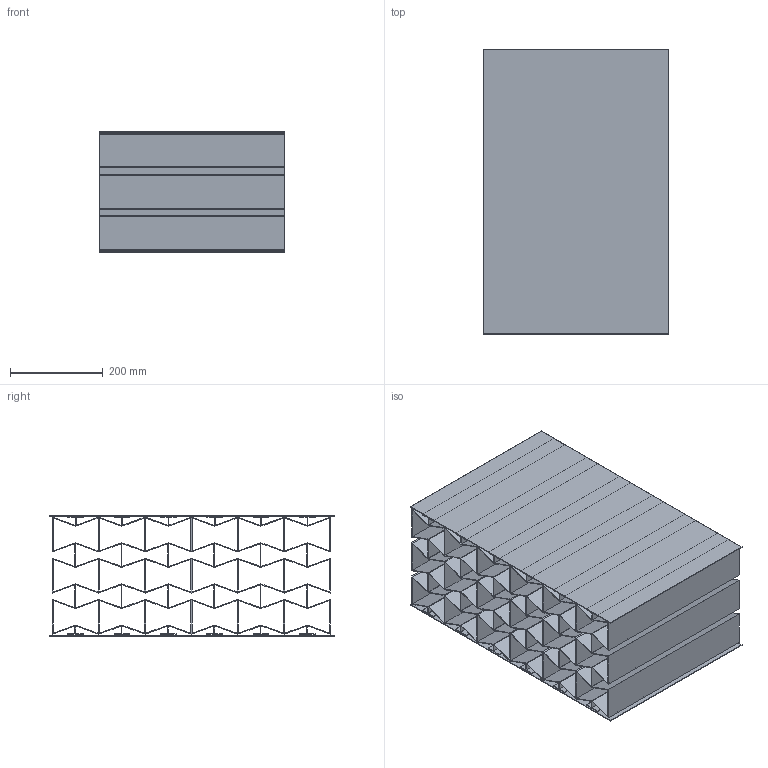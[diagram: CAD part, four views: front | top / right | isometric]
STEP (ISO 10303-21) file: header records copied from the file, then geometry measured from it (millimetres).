
FILE_DESCRIPTION(('CATIA V5 STEP Exchange'),'2;1');
FILE_NAME('C:\Users\HP\Desktop\HL0.75.stp','2024-08-10T16:47:27+00:00',('none'),('none'),'CATIA Version 5-6 Release 2019 SP6','CATIA V5 STEP AP203 v1','none');
FILE_SCHEMA(('CONFIG_CONTROL_DESIGN'));
Length unit declared in the file: millimetre
Products named in the file (1): Part1
Bounding box: 400 x 613 x 260.19 mm (x, y, z)
Volume: 5297113.7 mm3; surface area: 6175917.6 mm2
Topology: 3 solids, 3 shells, 308 faces, 906 edges, 604 vertices
Faces by surface type: plane 308
Entity records: 9709 total; most frequent: ORIENTED_EDGE 1812, CARTESIAN_POINT 1725, DIRECTION 1334, VECTOR 906, EDGE_CURVE 906, LINE 906, VERTEX_POINT 604, EDGE_LOOP 364
